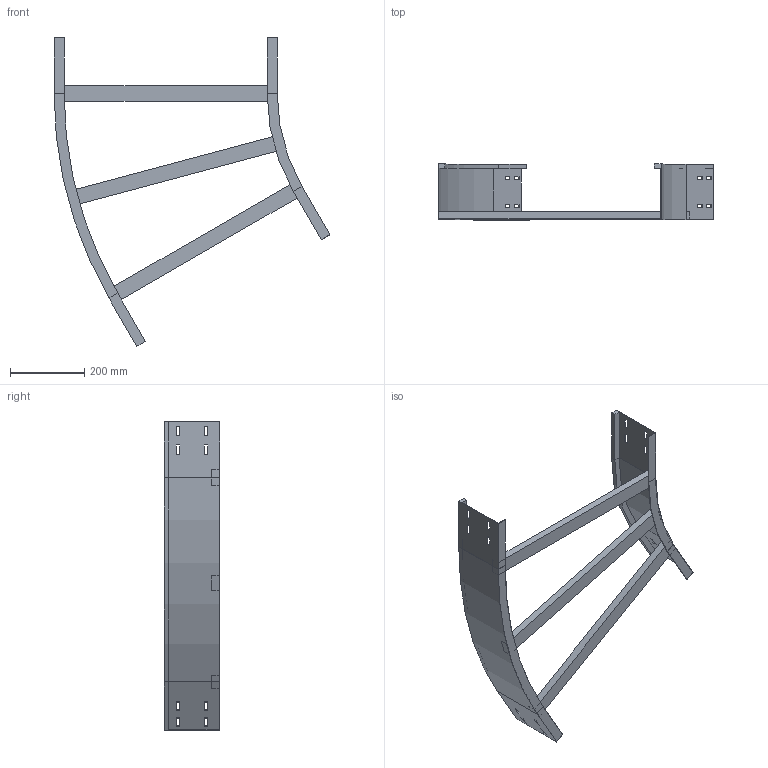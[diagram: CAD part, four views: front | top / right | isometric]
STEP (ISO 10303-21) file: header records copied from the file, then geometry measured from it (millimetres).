
FILE_DESCRIPTION (( 'STEP AP214' ), '1' );
FILE_NAME ('12J5F600.step', '2025-02-21T16:23:46', ( '' ), ( '' ), 'SwSTEP 2.0', 'SolidWorks 2023', '' );
FILE_SCHEMA (( 'AUTOMOTIVE_DESIGN' ));
Length unit declared in the file: millimetre
Products named in the file (4): LONGH.ESTERNO 30°_H150_R500+600; LONGH.INTERNO 30°_H150_R500; TRAVERSINO_600; 12J5F600
Assembly tree (5 placements, depth 2):
  12J5F600
    LONGH.INTERNO 30°_H150_R500
    LONGH.ESTERNO 30°_H150_R500+600
    TRAVERSINO_600  x3
Bounding box: 741.99 x 150 x 829.9 mm (x, y, z)
Volume: 2220344.9 mm3; surface area: 773326.6 mm2
Topology: 5 solids, 5 shells, 134 faces, 340 edges, 216 vertices
Faces by surface type: plane 126, cylinder 8
Entity records: 3821 total; most frequent: CARTESIAN_POINT 646, ORIENTED_EDGE 632, DIRECTION 592, EDGE_CURVE 316, VECTOR 300, LINE 300, VERTEX_POINT 200, EDGE_LOOP 154
